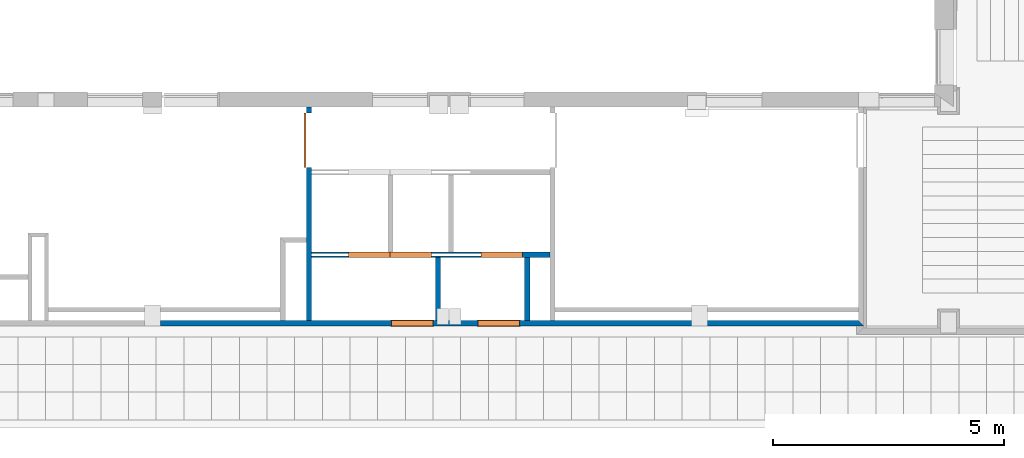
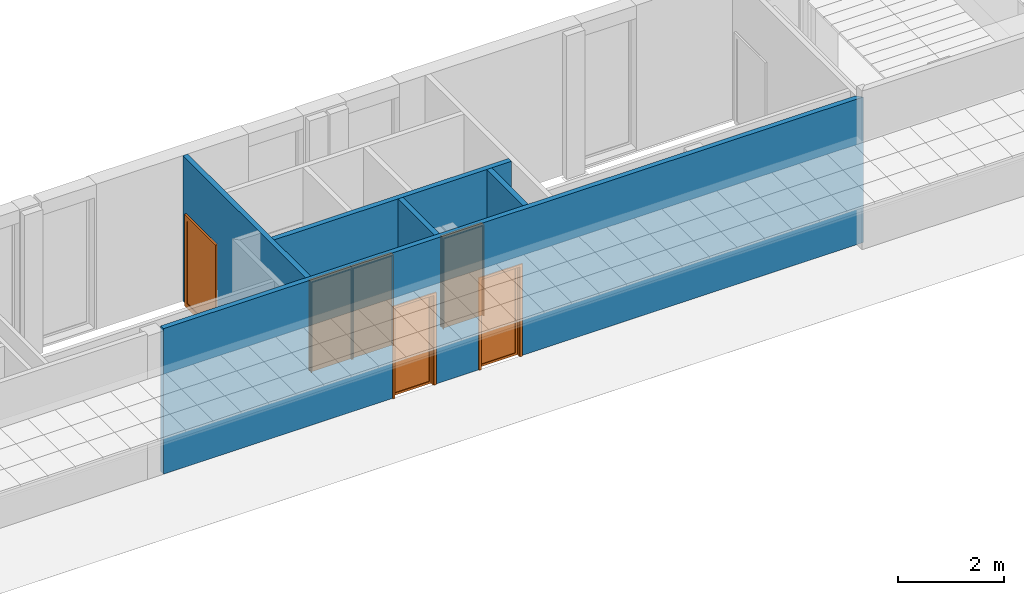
# One storey, part 29 of 60: 6 proxies, 5 walls, 6 openings.
"""IFC2X3 building model written with IfcOpenShell, lengths in millimetres."""

import ifcopenshell
import ifcopenshell.guid

model = None  # the IFC model being written
_history = None  # IfcOwnerHistory: only IFC2X3 demands one
_inside = {}  # id of a spatial element -> (the spatial element, [elements in it])
_under = {}  # id of a project, library or spatial element -> (it, [spatial elements below it])
_declared = {}  # id of a project -> (the project, [libraries it declares])
_typed = {}  # id of a type object -> (the type object, [elements of that type])
_made_of = {}  # id of a material, layer set ... -> (it, [elements and type objects made of it])


def new_model(schema):
    """Start an empty IFC model of exactly this schema.

    Asked for "IFC4X3", IfcOpenShell would pick the latest addendum, in which some entities
    have other attributes; the version numbers below select the first issue.
    IFC2X3 requires an IfcOwnerHistory on every rooted entity: one is made here for all.
    """
    global model, _history
    if schema == "IFC4X3":
        model = ifcopenshell.file(schema_version=(4, 3, 0, 0))
    else:
        model = ifcopenshell.file(schema=schema)
    _inside.clear()
    _under.clear()
    _declared.clear()
    _typed.clear()
    _made_of.clear()
    _history = None
    if model.schema == "IFC2X3":
        org = make("IfcOrganization", Name="unknown")
        user = make(
            "IfcPersonAndOrganization",
            ThePerson=make("IfcPerson", FamilyName="unknown"),
            TheOrganization=org,
        )
        app = make(
            "IfcApplication",
            ApplicationDeveloper=org,
            Version="unknown",
            ApplicationFullName="unknown",
            ApplicationIdentifier="unknown",
        )
        _history = make(
            "IfcOwnerHistory",
            OwningUser=user,
            OwningApplication=app,
            ChangeAction="ADDED",
            CreationDate=0,
        )
    return model


def make(cls, **values):
    """One entity of the class cls with the attributes given. An attribute that is None is left unset."""
    return model.create_entity(
        cls, **{name: value for name, value in values.items() if value is not None}
    )


def entity(cls, *values):
    """Any entity or typed value of the class cls, its attributes in the order of the schema. None: left unset."""
    e = model.create_entity(cls)
    for i, value in enumerate(values):
        if value is not None:
            e[i] = value
    return e


def rooted(cls, **values):
    """An entity with a GlobalId (a new one), such as an element, a storey or a relation."""
    return make(cls, GlobalId=ifcopenshell.guid.new(), OwnerHistory=_history, **values)


def si_unit(unit_type, name, prefix=None):
    """IfcSIUnit, for example si_unit("LENGTHUNIT", "METRE", prefix="MILLI")."""
    return make("IfcSIUnit", UnitType=unit_type, Prefix=prefix, Name=name)


def converted_unit(unit_type, name, factor, base, dimensions=None, offset=None):
    """IfcConversionBasedUnit, such as the inch: factor (a typed value) times the base unit."""
    return make(
        "IfcConversionBasedUnit"
        if offset is None
        else "IfcConversionBasedUnitWithOffset",
        ConversionOffset=offset,
        Dimensions=None
        if dimensions is None
        else entity("IfcDimensionalExponents", *dimensions),
        UnitType=unit_type,
        Name=name,
        ConversionFactor=make(
            "IfcMeasureWithUnit", ValueComponent=factor, UnitComponent=base
        ),
    )


def derived_unit(unit_type, elements):
    """IfcDerivedUnit: a product of units, each with its exponent."""
    return make(
        "IfcDerivedUnit",
        Elements=[
            make("IfcDerivedUnitElement", Unit=unit, Exponent=power)
            for unit, power in elements
        ],
        UnitType=unit_type,
    )


def money_unit(currency):
    """IfcMonetaryUnit."""
    return make("IfcMonetaryUnit", Currency=currency)


def assignment(units):
    """IfcUnitAssignment: the units of a project."""
    return None if units is None else make("IfcUnitAssignment", Units=units)


def point(xyz):
    """IfcCartesianPoint."""
    return None if xyz is None else make("IfcCartesianPoint", Coordinates=xyz)


def direction(xyz):
    """IfcDirection."""
    return None if xyz is None else make("IfcDirection", DirectionRatios=xyz)


def frame(location, z_axis=None, x_axis=None):
    """IfcAxis2Placement3D, a coordinate frame: its origin and axes. An axis left out is left unset."""
    return make(
        "IfcAxis2Placement3D",
        Location=point(location),
        Axis=direction(z_axis),
        RefDirection=direction(x_axis),
    )


def frame_2d(location, x_axis=None):
    """IfcAxis2Placement2D, a coordinate frame in the plane: its origin and x axis."""
    return make(
        "IfcAxis2Placement2D", Location=point(location), RefDirection=direction(x_axis)
    )


def origin_with_axes():
    """The frame at (0, 0, 0) with the z axis (0, 0, 1) and the x axis (1, 0, 0) written out."""
    return frame((0.0, 0.0, 0.0), z_axis=(0.0, 0.0, 1.0), x_axis=(1.0, 0.0, 0.0))


def origin_2d_with_axis():
    """The frame at (0, 0) in the plane with the x axis (1, 0) written out."""
    return frame_2d((0.0, 0.0), x_axis=(1.0, 0.0))


def place(relative_to, where):
    """IfcLocalPlacement: puts the frame where relative to a parent placement (None: the world)."""
    return make(
        "IfcLocalPlacement", PlacementRelTo=relative_to, RelativePlacement=where
    )


def context(
    kind, dimensions, precision=None, world=None, true_north=None, identifier=None
):
    """IfcGeometricRepresentationContext, for example the 3D "Model" context."""
    return make(
        "IfcGeometricRepresentationContext",
        ContextIdentifier=identifier,
        ContextType=kind,
        CoordinateSpaceDimension=dimensions,
        Precision=precision,
        WorldCoordinateSystem=world,
        TrueNorth=true_north,
    )


def subcontext(parent, identifier, kind, view, scale=None):
    """IfcGeometricRepresentationSubContext, for example "Body" below "Model"."""
    return make(
        "IfcGeometricRepresentationSubContext",
        ContextIdentifier=identifier,
        ContextType=kind,
        ParentContext=parent,
        TargetScale=scale,
        TargetView=view,
    )


def project(units=None, contexts=None):
    """IfcProject with its units and contexts."""
    return rooted(
        "IfcProject",
        Name="project",
        RepresentationContexts=contexts,
        UnitsInContext=assignment(units),
    )


def spatial(cls, under=None, at=None, **own):
    """A site, building, storey or space (cls), placed at a placement, below another one or the project."""
    s = rooted(cls, ObjectPlacement=at, **own)
    if under is not None:
        _under.setdefault(under.id(), (under, []))[1].append(s)
    return s


def polyline(points):
    """IfcPolyline through the points."""
    return make("IfcPolyline", Points=[point(p) for p in points])


def profile(cls, at=None, kind="AREA", **sizes):
    """A parametric profile (cls). Its sizes go by their IFC names, for example OverallWidth=200.0."""
    return make(cls, ProfileType=kind, Position=at, **sizes)


def rectangle(**sizes):
    """IfcRectangleProfileDef."""
    return profile("IfcRectangleProfileDef", **sizes)


def outline(outer, holes=None, kind="AREA"):
    """IfcArbitraryClosedProfileDef: a profile drawn as a closed curve; with holes, ...WithVoids."""
    if holes is None:
        return make("IfcArbitraryClosedProfileDef", ProfileType=kind, OuterCurve=outer)
    return make(
        "IfcArbitraryProfileDefWithVoids",
        ProfileType=kind,
        OuterCurve=outer,
        InnerCurves=holes,
    )


def extrude(swept, where, along, depth):
    """IfcExtrudedAreaSolid: the profile swept, set in the frame where, extruded along a direction by depth."""
    return make(
        "IfcExtrudedAreaSolid",
        SweptArea=swept,
        Position=where,
        ExtrudedDirection=direction(along),
        Depth=depth,
    )


def faces_of(points, faces, orient=None, outer=None):
    """IfcFace entities. A face is a list of loops; a loop is a list of indices into points, from 0.

    orient and outer hold one flag for each loop. By default every Orientation is true, the
    first loop of a face is its IfcFaceOuterBound and the others are IfcFaceBound.
    """
    made = []
    for i, loops in enumerate(faces):
        bounds = []
        for j, loop in enumerate(loops):
            is_outer = j == 0 if outer is None else outer[i][j]
            bounds.append(
                make(
                    "IfcFaceOuterBound" if is_outer else "IfcFaceBound",
                    Bound=make("IfcPolyLoop", Polygon=[points[k] for k in loop]),
                    Orientation=True if orient is None else orient[i][j],
                )
            )
        made.append(make("IfcFace", Bounds=bounds))
    return made


def open_shell(faces, orient=None, outer=None):
    """The faces of one IfcOpenShell. surface_model builds it on its shared points."""
    return ("IfcOpenShell", faces, orient, outer)


def faceted_brep(points, faces, orient=None, outer=None, voids=None):
    """IfcFacetedBrep: a solid bounded by flat faces; with voids (closed shells), ...WithVoids."""
    shared = [point(p) for p in points]
    hull = make("IfcClosedShell", CfsFaces=faces_of(shared, faces, orient, outer))
    if voids is None:
        return make("IfcFacetedBrep", Outer=hull)
    return make(
        "IfcFacetedBrepWithVoids",
        Outer=hull,
        Voids=[
            make(cls, CfsFaces=faces_of(shared, fs, o, b)) for cls, fs, o, b in voids
        ],
    )


def surface_model(cls, points, shells):
    """IfcFaceBasedSurfaceModel or IfcShellBasedSurfaceModel (cls): surfaces that need not close."""
    shared = [point(p) for p in points]
    made = [make(c, CfsFaces=faces_of(shared, fs, o, b)) for c, fs, o, b in shells]
    if cls == "IfcFaceBasedSurfaceModel":
        return make(cls, FbsmFaces=made)
    return make(cls, SbsmBoundary=made)


def shape(context_of_items, identifier, shape_type, items):
    """IfcShapeRepresentation: the items that make up one representation, for example the "Body"."""
    return make(
        "IfcShapeRepresentation",
        ContextOfItems=context_of_items,
        RepresentationIdentifier=identifier,
        RepresentationType=shape_type,
        Items=items,
    )


def source(mapping_origin, context_of_items, identifier, shape_type, items):
    """IfcRepresentationMap: a shape defined once, which mapped items show again and again."""
    return make(
        "IfcRepresentationMap",
        MappingOrigin=mapping_origin,
        MappedRepresentation=shape(context_of_items, identifier, shape_type, items),
    )


def transform(
    local_origin,
    x_axis=None,
    y_axis=None,
    z_axis=None,
    scale=None,
    scale2=None,
    scale3=None,
    uniform=True,
):
    """IfcCartesianTransformationOperator3D, or its non-uniform kind. x_axis, y_axis, z_axis: its Axis1, 2, 3."""
    if uniform:
        return make(
            "IfcCartesianTransformationOperator3D",
            Axis1=direction(x_axis),
            Axis2=direction(y_axis),
            LocalOrigin=point(local_origin),
            Scale=scale,
            Axis3=direction(z_axis),
        )
    return make(
        "IfcCartesianTransformationOperator3DnonUniform",
        Axis1=direction(x_axis),
        Axis2=direction(y_axis),
        LocalOrigin=point(local_origin),
        Scale=scale,
        Axis3=direction(z_axis),
        Scale2=scale2,
        Scale3=scale3,
    )


def mapped(mapping_source, mapping_target):
    """IfcMappedItem: shows the shape of a source again, moved by a transform."""
    return make(
        "IfcMappedItem", MappingSource=mapping_source, MappingTarget=mapping_target
    )


def material(Name=None, Category=None):
    """IfcMaterial."""
    return make("IfcMaterial", Name=Name, Category=Category)


def layer(
    of_material, thickness, ventilated=None, Name=None, Category=None, Priority=None
):
    """IfcMaterialLayer: one layer of a wall or slab, of a material (None: an air gap)."""
    return make(
        "IfcMaterialLayer",
        Material=of_material,
        LayerThickness=thickness,
        IsVentilated=ventilated,
        Name=Name,
        Category=Category,
        Priority=Priority,
    )


def layer_set(layers, Name=None):
    """IfcMaterialLayerSet."""
    return make("IfcMaterialLayerSet", MaterialLayers=layers, LayerSetName=Name)


def layer_usage(for_layer_set, set_direction, sense, offset, extent=None):
    """IfcMaterialLayerSetUsage: how a layer set lies in its element."""
    return make(
        "IfcMaterialLayerSetUsage",
        ForLayerSet=for_layer_set,
        LayerSetDirection=set_direction,
        DirectionSense=sense,
        OffsetFromReferenceLine=offset,
        ReferenceExtent=extent,
    )


def made_of(thing, what):
    """Note that an element or type object is made of a material, layer set ...; save() writes the relation."""
    if what is not None:
        _made_of.setdefault(what.id(), (what, []))[1].append(thing)
    return thing


def type_object(cls, material=None, **own):
    """A type object (cls), such as IfcWallType, which elements share."""
    return made_of(rooted(cls, **own), material)


def element(
    cls,
    number,
    at=None,
    inside=None,
    cuts=None,
    type_object=None,
    material=None,
    context=None,
    identifier="Body",
    shape_type=None,
    held_by="IfcProductDefinitionShape",
    body=None,
    shapes=None,
    **own,
):
    """One element of the class cls, such as IfcWall. Its Tag is "e" and its number.

    at: its placement. inside: the storey or other place that contains it. cuts: it is an
    opening in that element (IfcRelVoidsElement). A single representation is given by context,
    identifier, shape_type and body (its items); several are given by shapes. held_by: the class
    of the entity that holds the representations. save() writes the other relations.
    """
    e = rooted(cls, Tag="e%d" % number, ObjectPlacement=at, **own)
    if body is not None:
        shapes = [shape(context, identifier, shape_type, body)]
    if shapes is not None:
        e.Representation = make(held_by, Representations=shapes)
    if inside is not None:
        _inside.setdefault(inside.id(), (inside, []))[1].append(e)
    if cuts is not None:
        rooted(
            "IfcRelVoidsElement", RelatingBuildingElement=cuts, RelatedOpeningElement=e
        )
    if type_object is not None:
        _typed.setdefault(type_object.id(), (type_object, []))[1].append(e)
    return made_of(e, material)


def fill(opening, filler):
    """IfcRelFillsElement: the door or window that sits in an opening."""
    return rooted(
        "IfcRelFillsElement",
        RelatingOpeningElement=opening,
        RelatedBuildingElement=filler,
    )


def aggregate(whole, parts):
    """IfcRelAggregates: a whole, such as a stair, and the parts it consists of."""
    return rooted("IfcRelAggregates", RelatingObject=whole, RelatedObjects=parts)


def save(model, path):
    """Write the relations noted so far, then the file.

    IfcRelAggregates (storeys below a building ...), IfcRelContainedInSpatialStructure (elements
    in a storey), IfcRelDefinesByType, IfcRelAssociatesMaterial and IfcRelDeclares: one each for
    every whole, place, type object, material and project.
    """
    for whole, parts in _under.values():
        aggregate(whole, parts)
    for where, things in _inside.values():
        rooted(
            "IfcRelContainedInSpatialStructure",
            RelatedElements=things,
            RelatingStructure=where,
        )
    for kind, things in _typed.values():
        rooted("IfcRelDefinesByType", RelatedObjects=things, RelatingType=kind)
    for what, things in _made_of.values():
        rooted("IfcRelAssociatesMaterial", RelatedObjects=things, RelatingMaterial=what)
    for by, libraries in _declared.values():
        rooted("IfcRelDeclares", RelatingContext=by, RelatedDefinitions=libraries)
    model.write(path)


model = new_model("IFC2X3")

# Units and contexts
model_context = context("Model", 3, precision=0.01, world=origin_with_axes(), true_north=direction((0.0, 1.0)))
body_context = subcontext(model_context, "Body", "Model", "MODEL_VIEW")
ifc_project = project(units=[si_unit("LENGTHUNIT", "METRE", prefix="MILLI"), si_unit("AREAUNIT", "SQUARE_METRE"), si_unit("VOLUMEUNIT", "CUBIC_METRE"), converted_unit("PLANEANGLEUNIT", "DEGREE", entity("IfcPlaneAngleMeasure", 0.0174532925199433), si_unit("PLANEANGLEUNIT", "RADIAN"), dimensions=[0, 0, 0, 0, 0, 0, 0]), money_unit("USD"), converted_unit("TIMEUNIT", "Year", entity("IfcTimeMeasure", 31557600.0), si_unit("TIMEUNIT", "SECOND"), dimensions=[0, 0, 1, 0, 0, 0, 0]), si_unit("MASSUNIT", "GRAM", prefix="KILO"), si_unit("THERMODYNAMICTEMPERATUREUNIT", "DEGREE_CELSIUS"), si_unit("LUMINOUSINTENSITYUNIT", "LUMEN"), si_unit("ENERGYUNIT", "JOULE", prefix="MEGA"), derived_unit("THERMALCONDUCTANCEUNIT", [(si_unit("POWERUNIT", "WATT"), 1), (si_unit("LENGTHUNIT", "METRE"), -1), (si_unit("THERMODYNAMICTEMPERATUREUNIT", "KELVIN"), -1)]), derived_unit("SPECIFICHEATCAPACITYUNIT", [(si_unit("ENERGYUNIT", "JOULE"), 1), (si_unit("MASSUNIT", "GRAM", prefix="KILO"), -1), (si_unit("THERMODYNAMICTEMPERATUREUNIT", "KELVIN"), -1)]), derived_unit("MASSDENSITYUNIT", [(si_unit("MASSUNIT", "GRAM", prefix="KILO"), 1), (si_unit("VOLUMEUNIT", "CUBIC_METRE"), -1)])], contexts=[model_context])

# Site, building, storey
site_placement = place(None, origin_with_axes())
site = spatial("IfcSite", under=ifc_project, at=site_placement, Name="Sitio", CompositionType="ELEMENT")
building_placement = place(site_placement, origin_with_axes())
building = spatial("IfcBuilding", under=site, at=building_placement, Name="Construcción", CompositionType="ELEMENT")
storey_placement = place(building_placement, frame((0.0, 0.0, 3650.0), z_axis=(0.0, 0.0, 1.0), x_axis=(1.0, 0.0, 0.0)))
storey = spatial("IfcBuildingStorey", under=building, at=storey_placement, Name="PLANTA 2ª", CompositionType="ELEMENT", Elevation=3650.0)

# Wall, openings, proxies
ifc_material_1 = material(Name="ARQ_AM246_Arrebossat_De_Guix")
ifc_layer_1 = layer(ifc_material_1, 10.0, ventilated="UNKNOWN")
ifc_material_2 = material(Name="ARQ_CE217_Gero")
ifc_layer_2 = layer(ifc_material_2, 90.0, ventilated="UNKNOWN")
ifc_layer_3 = layer(ifc_material_1, 10.0, ventilated="UNKNOWN")
ifc_layer_set = layer_set([ifc_layer_1, ifc_layer_2, ifc_layer_3], Name="CR Enva Totxana")
ifc_layer_usage_1 = layer_usage(ifc_layer_set, "AXIS2", "POSITIVE", 0.0)
wall_type = type_object("IfcWallType", Name="CR Enva Totxana 110", PredefinedType="NOTDEFINED")
wall_1_placement = place(storey_placement, frame((-18875.39246172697, -17083.97582371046, 0.0), z_axis=(0.0, 0.0, 1.0), x_axis=(1.0, 0.0, 0.0)))
wall_1 = element("IfcWallStandardCase", 1, at=wall_1_placement, inside=storey, type_object=wall_type, material=ifc_layer_usage_1, Name="MS-201", context=body_context, shape_type="SweptSolid", body=[
    extrude(outline(polyline([(0.0, 0.0), (15236.49825822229, 0.0), (15126.49825822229, 109.9999999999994), (0.0, 109.9999999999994), (0.0, 0.0)])), origin_with_axes(), (0.0, 0.0, 1.0), 3350.0),
])
opening_1_placement = place(wall_1_placement, frame((5454.998316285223, 0.0, 0.0), z_axis=(0.0, 0.0, 1.0), x_axis=(1.0, 0.0, 0.0)))
opening_1 = element("IfcOpeningElement", 2, at=opening_1_placement, cuts=wall_1, Name="PF-05D", context=body_context, shape_type="SweptSolid", body=[
    extrude(rectangle(XDim=899.9999999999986, YDim=2100.0, at=origin_2d_with_axis()), frame((0.0, -109.9999999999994, 1050.0), z_axis=(0.0, 1.0, 0.0), x_axis=(1.0, 0.0, 0.0)), (0.0, 0.0, 1.0), 329.9999999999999),
    extrude(rectangle(XDim=943.9999999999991, YDim=2122.0, at=origin_2d_with_axis()), frame((0.0, 0.0, 1061.0), z_axis=(0.0, 1.0, 0.0), x_axis=(1.0, 0.0, 0.0)), (0.0, 0.0, -1.0), 110.0),
    extrude(rectangle(XDim=943.9999999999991, YDim=2122.0, at=origin_2d_with_axis()), frame((0.0, 109.9999999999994, 1061.0), z_axis=(0.0, -1.0, 0.0), x_axis=(1.0, 0.0, 0.0)), (0.0, 0.0, -1.0), 110.0),
])
opening_2_placement = place(wall_1_placement, frame((7332.200704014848, 0.0, 0.0), z_axis=(0.0, 0.0, 1.0), x_axis=(1.0, 0.0, 0.0)))
opening_2 = element("IfcOpeningElement", 3, at=opening_2_placement, cuts=wall_1, Name="PF-06D", context=body_context, shape_type="SweptSolid", body=[
    extrude(rectangle(XDim=899.9999999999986, YDim=2100.0, at=origin_2d_with_axis()), frame((0.0, -109.9999999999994, 1050.0), z_axis=(0.0, 1.0, 0.0), x_axis=(1.0, 0.0, 0.0)), (0.0, 0.0, 1.0), 329.9999999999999),
    extrude(rectangle(XDim=943.9999999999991, YDim=2122.0, at=origin_2d_with_axis()), frame((0.0, 0.0, 1061.0), z_axis=(0.0, 1.0, 0.0), x_axis=(1.0, 0.0, 0.0)), (0.0, 0.0, -1.0), 110.0),
    extrude(rectangle(XDim=943.9999999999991, YDim=2122.0, at=origin_2d_with_axis()), frame((0.0, 109.9999999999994, 1061.0), z_axis=(0.0, -1.0, 0.0), x_axis=(1.0, 0.0, 0.0)), (0.0, 0.0, -1.0), 110.0),
])
building_element_proxy_type_1 = type_object("IfcBuildingElementProxyType", Name="Puerta 27", PredefinedType="NOTDEFINED")
shared_shape_1 = source(origin_with_axes(), body_context, "Body", "SurfaceModel", [
    faceted_brep([(-472.0000000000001, -129.0, 0.0), (-472.0000000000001, -110.0, 0.0), (-422.0000000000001, -110.0, 0.0), (-422.0000000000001, -129.0, 0.0), (-472.0000000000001, -129.0000000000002, 2122.0), (-472.0000000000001, -110.0000000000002, 2122.0), (-422.0000000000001, -110.0000000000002, 2072.0), (-422.0000000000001, -129.0000000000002, 2072.0)], [[[0, 1, 2, 3]], [[4, 5, 1, 0]], [[1, 5, 6, 2]], [[3, 2, 6, 7]], [[0, 3, 7, 4]], [[7, 6, 5, 4]]]),
    faceted_brep([(472.0000000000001, -129.0000000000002, 2122.0), (472.0000000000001, -110.0000000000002, 2122.0), (422.0000000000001, -110.0000000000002, 2072.0), (422.0000000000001, -129.0000000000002, 2072.0), (472.0000000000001, -129.0, 0.0), (472.0000000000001, -110.0, 0.0), (422.0000000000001, -110.0, 0.0), (422.0000000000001, -129.0, 0.0)], [[[0, 1, 2, 3]], [[4, 5, 1, 0]], [[1, 5, 6, 2]], [[3, 2, 6, 7]], [[0, 3, 7, 4]], [[7, 6, 5, 4]]]),
    faceted_brep([(-472.0000000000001, -129.0000000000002, 2122.0), (-472.0000000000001, -110.0000000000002, 2122.0), (-422.0000000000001, -110.0000000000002, 2072.0), (-422.0000000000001, -129.0000000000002, 2072.0), (472.0000000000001, -129.0000000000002, 2122.0), (472.0000000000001, -110.0000000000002, 2122.0), (422.0000000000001, -110.0000000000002, 2072.0), (422.0000000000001, -129.0000000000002, 2072.0)], [[[0, 1, 2, 3]], [[4, 5, 1, 0]], [[1, 5, 6, 2]], [[3, 2, 6, 7]], [[0, 3, 7, 4]], [[7, 6, 5, 4]]]),
    faceted_brep([(-472.0000000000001, 19.0, 0.0), (-422.0000000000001, 19.0, 0.0), (-422.0000000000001, 0.0, 0.0), (-472.0000000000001, 0.0, 0.0), (-472.0000000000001, 18.99999999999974, 2122.0), (-422.0000000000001, 18.99999999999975, 2072.0), (-422.0000000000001, 0.0, 2072.0), (-472.0000000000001, 0.0, 2122.0)], [[[0, 1, 2, 3]], [[0, 4, 5, 1]], [[1, 5, 6, 2]], [[3, 2, 6, 7]], [[4, 0, 3, 7]], [[5, 4, 7, 6]]]),
    faceted_brep([(472.0000000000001, 18.99999999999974, 2122.0), (422.0000000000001, 18.99999999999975, 2072.0), (422.0000000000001, 0.0, 2072.0), (472.0000000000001, 0.0, 2122.0), (472.0000000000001, 19.0, 0.0), (422.0000000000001, 19.0, 0.0), (422.0000000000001, 0.0, 0.0), (472.0000000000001, 0.0, 0.0)], [[[0, 1, 2, 3]], [[0, 4, 5, 1]], [[1, 5, 6, 2]], [[3, 2, 6, 7]], [[4, 0, 3, 7]], [[5, 4, 7, 6]]]),
    faceted_brep([(-472.0000000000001, 18.99999999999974, 2122.0), (-422.0, 18.99999999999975, 2072.0), (-422.0, 0.0, 2072.0), (-472.0000000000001, 0.0, 2122.0), (472.0000000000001, 18.99999999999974, 2122.0), (422.0, 18.99999999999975, 2072.0), (422.0, 0.0, 2072.0), (472.0000000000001, 0.0, 2122.0)], [[[0, 1, 2, 3]], [[0, 4, 5, 1]], [[1, 5, 6, 2]], [[3, 2, 6, 7]], [[4, 0, 3, 7]], [[5, 4, 7, 6]]]),
    faceted_brep([(-409.9999999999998, -40.0, 0.0), (-410.0000000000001, -40.0, 2060.0), (-410.0000000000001, -110.0, 2060.0), (-410.0000000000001, -110.0, 0.0), (-422.0000000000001, -40.0, 2060.0), (-422.0000000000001, -40.0, 0.0), (-422.0000000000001, 0.0, 2060.0), (-449.9999999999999, 0.0, 2060.0), (-449.9999999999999, -110.0, 2060.0), (-449.9999999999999, -110.0, 0.0), (-449.9999999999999, 0.0, 0.0), (-422.0000000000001, 0.0, 0.0)], [[[0, 1, 2, 3]], [[4, 1, 0, 5]], [[4, 6, 7, 8, 2, 1]], [[3, 2, 8, 9]], [[5, 0, 3, 9, 10, 11]], [[6, 4, 5, 11]], [[6, 11, 10, 7]], [[10, 9, 8, 7]]]),
    faceted_brep([(422.0000000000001, -40.0, 2060.0), (410.0000000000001, -40.0, 2060.0), (410.0000000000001, -110.0, 2060.0), (449.9999999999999, -110.0, 2060.0), (449.9999999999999, 0.0, 2060.0), (422.0000000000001, 0.0, 2060.0), (422.0000000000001, -40.0, 0.0), (410.0000000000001, -40.0, 0.0), (410.0000000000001, -110.0, 0.0), (449.9999999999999, -110.0, 0.0), (449.9999999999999, 0.0, 0.0), (422.0000000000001, 0.0, 0.0)], [[[0, 1, 2, 3, 4, 5]], [[1, 0, 6, 7]], [[1, 7, 8, 2]], [[3, 2, 8, 9]], [[4, 3, 9, 10]], [[11, 5, 4, 10]], [[0, 5, 11, 6]], [[6, 11, 10, 9, 8, 7]]]),
    faceted_brep([(-422.0000000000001, 0.0, 2072.0), (-422.0000000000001, 0.0, 2060.0), (-450.0, 0.0, 2060.0), (-450.0, 0.0, 2100.0), (450.0, 0.0, 2100.0), (450.0, 0.0, 2060.0), (422.0000000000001, 0.0, 2060.0), (422.0000000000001, 0.0, 2072.0), (-422.0000000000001, -40.0, 2072.0), (-422.0000000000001, -40.0, 2060.0), (-410.0000000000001, -40.0, 2060.0), (-410.0000000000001, -110.0, 2060.0), (-450.0, -110.0, 2060.0), (-450.0, -110.0, 2100.0), (450.0, -110.0, 2100.0), (450.0, -110.0, 2060.0), (422.0000000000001, -40.0, 2060.0), (410.0000000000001, -110.0, 2060.0), (410.0000000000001, -40.0, 2060.0), (422.0000000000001, -40.0, 2072.0)], [[[0, 1, 2, 3, 4, 5, 6, 7]], [[1, 0, 8, 9]], [[9, 10, 11, 12, 2, 1]], [[2, 12, 13, 3]], [[3, 13, 14, 4]], [[4, 14, 15, 5]], [[16, 6, 5, 15, 17, 18]], [[7, 6, 16, 19]], [[0, 7, 19, 8]], [[16, 18, 10, 9, 8, 19]], [[10, 18, 17, 11]], [[17, 15, 14, 13, 12, 11]]]),
    faceted_brep([(421.9999999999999, 0.0, 50.0), (421.9999999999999, -40.0, 50.0), (371.9999999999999, -40.0, 50.0), (371.9999999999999, 0.0, 50.0), (421.9999999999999, 0.0, 2022.0), (421.9999999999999, -40.00000000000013, 2022.0), (371.9999999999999, -40.00000000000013, 2022.0), (371.9999999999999, 0.0, 2022.0)], [[[0, 1, 2, 3]], [[4, 5, 1, 0]], [[1, 5, 6, 2]], [[3, 2, 6, 7]], [[0, 3, 7, 4]], [[7, 6, 5, 4]]]),
    faceted_brep([(-422.0000000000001, 0.0, 50.0), (-422.0000000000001, -40.0, 50.0), (-422.0000000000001, -40.00000000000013, 2022.0), (-422.0000000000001, 0.0, 2022.0), (-372.0000000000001, 0.0, 50.0), (-372.0000000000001, -40.0, 50.0), (-372.0000000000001, -40.00000000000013, 2022.0), (-372.0000000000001, 0.0, 2022.0)], [[[0, 1, 2, 3]], [[4, 5, 1, 0]], [[1, 5, 6, 2]], [[3, 2, 6, 7]], [[0, 3, 7, 4]], [[7, 6, 5, 4]]]),
    faceted_brep([(421.9999999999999, 0.0, 0.0), (421.9999999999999, -40.0, 0.0), (-422.0000000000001, -40.0, 0.0), (-422.0000000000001, 0.0, 0.0), (421.9999999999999, 0.0, 50.0), (421.9999999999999, -40.0, 50.0), (371.9999999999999, -40.0, 50.0), (-372.0000000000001, -40.0, 50.0), (-422.0000000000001, -40.0, 50.0), (-422.0000000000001, 0.0, 50.0), (-372.0000000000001, 0.0, 50.0), (371.9999999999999, 0.0, 50.0)], [[[0, 1, 2, 3]], [[4, 5, 1, 0]], [[1, 5, 6, 7, 8, 2]], [[3, 2, 8, 9]], [[0, 3, 9, 10, 11, 4]], [[11, 6, 5, 4]], [[10, 7, 6, 11]], [[9, 8, 7, 10]]]),
    faceted_brep([(421.9999999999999, 0.0, 2072.0), (421.9999999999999, -40.00000000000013, 2072.0), (421.9999999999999, -40.00000000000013, 2022.0), (421.9999999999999, 0.0, 2022.0), (-422.0000000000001, 0.0, 2072.0), (-422.0000000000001, -40.00000000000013, 2072.0), (-422.0000000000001, -40.00000000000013, 2022.0), (-372.0000000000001, -40.00000000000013, 2022.0), (371.9999999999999, -40.00000000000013, 2022.0), (371.9999999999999, 0.0, 2022.0), (-372.0000000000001, 0.0, 2022.0), (-422.0000000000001, 0.0, 2022.0)], [[[0, 1, 2, 3]], [[4, 5, 1, 0]], [[1, 5, 6, 7, 8, 2]], [[3, 2, 8, 9]], [[0, 3, 9, 10, 11, 4]], [[11, 6, 5, 4]], [[10, 7, 6, 11]], [[9, 8, 7, 10]]]),
    surface_model("IfcShellBasedSurfaceModel", [(371.9999999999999, -14.0, 50.0), (-372.0000000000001, -14.0, 50.0), (-372.0000000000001, -14.0, 2022.0), (371.9999999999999, -14.0, 2022.0)], [open_shell([[[0, 1, 2, 3]]])]),
    surface_model("IfcShellBasedSurfaceModel", [(371.9999999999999, -26.0, 50.0), (371.9999999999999, -26.0, 2022.0), (-372.0000000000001, -26.0, 2022.0), (-372.0000000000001, -26.0, 50.0)], [open_shell([[[0, 1, 2, 3]]])]),
])
proxy_1_placement = place(opening_1_placement, frame((-449.9999999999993, 0.0, 0.0), z_axis=(0.0, 0.0, 1.0), x_axis=(1.0, 0.0, 0.0)))
proxy_1 = element("IfcBuildingElementProxy", 4, at=proxy_1_placement, inside=storey, type_object=building_element_proxy_type_1, Name="PF-05D", context=body_context, shape_type="MappedRepresentation", body=[
    mapped(shared_shape_1, transform((449.9999999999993, 109.9999999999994, 0.0))),
])
fill(opening_1, proxy_1)
proxy_2_placement = place(opening_2_placement, frame((-449.9999999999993, 0.0, 0.0), z_axis=(0.0, 0.0, 1.0), x_axis=(1.0, 0.0, 0.0)))
proxy_2 = element("IfcBuildingElementProxy", 5, at=proxy_2_placement, inside=storey, type_object=building_element_proxy_type_1, Name="PF-06D", context=body_context, shape_type="MappedRepresentation", body=[
    mapped(shared_shape_1, transform((449.9999999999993, 109.9999999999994, 0.0))),
])
fill(opening_2, proxy_2)

# Wall, opening, proxy
ifc_layer_usage_2 = layer_usage(ifc_layer_set, "AXIS2", "POSITIVE", -110.0)
wall_2_placement = place(storey_placement, frame((-15716.10900490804, -17083.97582371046, 0.0), z_axis=(0.0, 0.0, 1.0), x_axis=(0.0, 1.0, 0.0)))
wall_2 = element("IfcWallStandardCase", 6, at=wall_2_placement, inside=storey, type_object=wall_type, material=ifc_layer_usage_2, Name="MS-201", context=body_context, shape_type="SweptSolid", body=[
    extrude(outline(polyline([(109.9999999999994, -109.9999999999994), (4744.999999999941, -109.9999999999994), (4744.999999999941, 0.0), (109.9999999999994, 0.0), (109.9999999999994, -109.9999999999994)])), origin_with_axes(), (0.0, 0.0, 1.0), 3350.0),
])
opening_3_placement = place(wall_2_placement, frame((4023.999835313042, 0.0, 0.0), z_axis=(0.0, 0.0, 1.0), x_axis=(1.0, 0.0, 0.0)))
opening_3 = element("IfcOpeningElement", 7, at=opening_3_placement, cuts=wall_2, Name="PF-13D", context=body_context, shape_type="SweptSolid", body=[
    extrude(rectangle(XDim=1174.000000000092, YDim=2100.0, at=origin_2d_with_axis()), frame((0.0, -109.9999999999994, 1050.0), z_axis=(0.0, -1.0, 0.0), x_axis=(-1.0, 0.0, 0.0)), (0.0, 0.0, -1.0), 329.9999999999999),
])
building_element_proxy_type_2 = type_object("IfcBuildingElementProxyType", Name="Puerta Corredera Exterior 27", PredefinedType="NOTDEFINED")
shared_shape_2 = source(origin_with_axes(), body_context, "Body", "SurfaceModel", [
    faceted_brep([(-587.0000000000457, 44.99999999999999, 100.0), (-487.0000000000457, 44.99999999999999, 100.0), (-487.0000000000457, 4.99999999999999, 100.0), (-587.0000000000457, 4.99999999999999, 100.0), (-587.0000000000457, 44.99999999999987, 2000.0), (-487.0000000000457, 44.99999999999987, 2000.0), (-487.0000000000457, 4.999999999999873, 2000.0), (-587.0000000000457, 4.999999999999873, 2000.0)], [[[0, 1, 2, 3]], [[0, 4, 5, 1]], [[1, 5, 6, 2]], [[3, 2, 6, 7]], [[4, 0, 3, 7]], [[5, 4, 7, 6]]]),
    faceted_brep([(587.0000000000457, 44.99999999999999, 100.0), (587.0000000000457, 44.99999999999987, 2000.0), (587.0000000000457, 4.999999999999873, 2000.0), (587.0000000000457, 4.99999999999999, 100.0), (487.0000000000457, 44.99999999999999, 100.0), (487.0000000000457, 44.99999999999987, 2000.0), (487.0000000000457, 4.999999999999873, 2000.0), (487.0000000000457, 4.99999999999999, 100.0)], [[[0, 1, 2, 3]], [[0, 4, 5, 1]], [[1, 5, 6, 2]], [[3, 2, 6, 7]], [[4, 0, 3, 7]], [[5, 4, 7, 6]]]),
    faceted_brep([(-587.0000000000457, 45.0, 0.0), (587.0000000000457, 45.0, 0.0), (587.0000000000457, 4.999999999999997, 0.0), (-587.0000000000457, 4.999999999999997, 0.0), (-587.0000000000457, 44.99999999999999, 100.0), (-487.0000000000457, 44.99999999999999, 100.0), (487.0000000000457, 44.99999999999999, 100.0), (587.0000000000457, 44.99999999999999, 100.0), (587.0000000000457, 4.99999999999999, 100.0), (487.0000000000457, 4.99999999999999, 100.0), (-487.0000000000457, 4.99999999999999, 100.0), (-587.0000000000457, 4.99999999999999, 100.0)], [[[0, 1, 2, 3]], [[0, 4, 5, 6, 7, 1]], [[1, 7, 8, 2]], [[3, 2, 8, 9, 10, 11]], [[4, 0, 3, 11]], [[5, 4, 11, 10]], [[6, 5, 10, 9]], [[7, 6, 9, 8]]]),
    faceted_brep([(-587.0000000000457, 44.99999999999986, 2100.0), (-587.0000000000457, 44.99999999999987, 2000.0), (-587.0000000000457, 4.999999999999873, 2000.0), (-587.0000000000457, 4.999999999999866, 2100.0), (587.0000000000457, 44.99999999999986, 2100.0), (587.0000000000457, 44.99999999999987, 2000.0), (487.0000000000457, 44.99999999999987, 2000.0), (-487.0000000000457, 44.99999999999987, 2000.0), (-487.0000000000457, 4.999999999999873, 2000.0), (487.0000000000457, 4.999999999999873, 2000.0), (587.0000000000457, 4.999999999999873, 2000.0), (587.0000000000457, 4.999999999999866, 2100.0)], [[[0, 1, 2, 3]], [[0, 4, 5, 6, 7, 1]], [[1, 7, 8, 2]], [[3, 2, 8, 9, 10, 11]], [[4, 0, 3, 11]], [[5, 4, 11, 10]], [[6, 5, 10, 9]], [[7, 6, 9, 8]]]),
    surface_model("IfcShellBasedSurfaceModel", [(-487.0000000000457, 31.0, 100.0), (-487.0000000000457, 31.0, 2000.0), (487.0000000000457, 31.0, 2000.0), (487.0000000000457, 31.0, 100.0)], [open_shell([[[0, 1, 2, 3]]])]),
    surface_model("IfcShellBasedSurfaceModel", [(-487.0000000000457, 19.0, 100.0), (487.0000000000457, 19.0, 100.0), (487.0000000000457, 19.0, 2000.0), (-487.0000000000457, 19.0, 2000.0)], [open_shell([[[0, 1, 2, 3]]])]),
])
proxy_3_placement = place(opening_3_placement, frame((-587.0000000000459, 0.0, 0.0), z_axis=(0.0, 0.0, 1.0), x_axis=(1.0, 0.0, 0.0)))
proxy_3 = element("IfcBuildingElementProxy", 8, at=proxy_3_placement, inside=storey, type_object=building_element_proxy_type_2, Name="PF-13D", context=body_context, shape_type="MappedRepresentation", body=[
    mapped(shared_shape_2, transform((587.0000000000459, 0.0, 0.0))),
])
fill(opening_3, proxy_3)

# Wall, openings, proxies
ifc_layer_usage_3 = layer_usage(ifc_layer_set, "AXIS2", "POSITIVE", -110.0)
wall_3_placement = place(storey_placement, frame((-10437.89402518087, -15599.37688161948, 0.0), z_axis=(0.0, 0.0, 1.0), x_axis=(-1.0, 0.0, 0.0)))
wall_3 = element("IfcWallStandardCase", 9, at=wall_3_placement, inside=storey, type_object=wall_type, material=ifc_layer_usage_3, Name="MS-201", context=body_context, shape_type="SweptSolid", body=[
    extrude(outline(polyline([(0.0, -109.9999999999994), (5168.214979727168, -109.9999999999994), (5168.214979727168, 0.0), (0.0, 0.0), (0.0, -109.9999999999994)])), origin_with_axes(), (0.0, 0.0, 1.0), 3350.0),
])
opening_4_placement = place(wall_3_placement, frame((3912.625216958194, 0.0, 0.0), z_axis=(0.0, 0.0, 1.0), x_axis=(1.0, 0.0, 0.0)))
opening_4 = element("IfcOpeningElement", 10, at=opening_4_placement, cuts=wall_3, Name="PF-14D", context=body_context, shape_type="SweptSolid", body=[
    extrude(rectangle(XDim=899.9999999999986, YDim=2100.0, at=origin_2d_with_axis()), frame((0.0, 109.9999999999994, 1050.0), z_axis=(0.0, -1.0, 0.0), x_axis=(1.0, 0.0, 0.0)), (0.0, 0.0, 1.0), 329.9999999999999),
    extrude(rectangle(XDim=845.0000000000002, YDim=2080.0, at=origin_2d_with_axis()), frame((872.4999999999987, -29.99999999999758, 1040.0), z_axis=(0.0, -1.0, 0.0), x_axis=(1.0, 0.0, 0.0)), (0.0, 0.0, 1.0), 50.0),
])
opening_5_placement = place(wall_3_placement, frame((3012.625216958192, 0.0, 0.0), z_axis=(0.0, 0.0, 1.0), x_axis=(1.0, 0.0, 0.0)))
opening_5 = element("IfcOpeningElement", 11, at=opening_5_placement, cuts=wall_3, Name="PF-14D", context=body_context, shape_type="SweptSolid", body=[
    extrude(rectangle(XDim=899.9999999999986, YDim=2100.0, at=origin_2d_with_axis()), frame((0.0, 109.9999999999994, 1050.0), z_axis=(0.0, 1.0, 0.0), x_axis=(-1.0, 0.0, 0.0)), (0.0, 0.0, -1.0), 329.9999999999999),
    extrude(rectangle(XDim=845.0000000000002, YDim=2080.0, at=origin_2d_with_axis()), frame((-872.4999999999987, -29.99999999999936, 1040.0), z_axis=(0.0, 1.0, 0.0), x_axis=(-1.0, 0.0, 0.0)), (0.0, 0.0, -1.0), 50.0),
])
opening_6_placement = place(wall_3_placement, frame((1043.003576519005, 0.0, 0.0), z_axis=(0.0, 0.0, 1.0), x_axis=(1.0, 0.0, 0.0)))
opening_6 = element("IfcOpeningElement", 12, at=opening_6_placement, cuts=wall_3, Name="PF-14D", context=body_context, shape_type="SweptSolid", body=[
    extrude(rectangle(XDim=899.9999999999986, YDim=2100.0, at=origin_2d_with_axis()), frame((0.0, 109.9999999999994, 1050.0), z_axis=(0.0, -1.0, 0.0), x_axis=(1.0, 0.0, 0.0)), (0.0, 0.0, 1.0), 329.9999999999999),
    extrude(rectangle(XDim=845.0000000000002, YDim=2080.0, at=origin_2d_with_axis()), frame((872.4999999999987, -29.99999999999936, 1040.0), z_axis=(0.0, -1.0, 0.0), x_axis=(1.0, 0.0, 0.0)), (0.0, 0.0, 1.0), 50.0),
])
building_element_proxy_type_3 = type_object("IfcBuildingElementProxyType", Name="Puerta Corredera Empotrada 27", PredefinedType="NOTDEFINED")
shared_shape_3 = source(origin_with_axes(), body_context, "Body", "Brep", [
    faceted_brep([(450.0, 0.0, 0.0), (450.0, -110.0, 0.0), (430.0, -110.0, 0.0), (430.0, 0.0, 0.0), (450.0, 0.0, 2080.0), (450.0, -110.0, 2080.0), (430.0, -110.0, 2080.0), (430.0, 0.0, 2080.0)], [[[0, 1, 2, 3]], [[4, 5, 1, 0]], [[1, 5, 6, 2]], [[3, 2, 6, 7]], [[0, 3, 7, 4]], [[7, 6, 5, 4]]]),
    faceted_brep([(-430.0, -30.00000000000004, 2080.0), (-430.0, 0.0, 2080.0), (-450.0, 0.0, 2080.0), (-450.0, -30.00000000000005, 2080.0), (-430.0, -30.00000000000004, 0.0), (-430.0, 0.0, 0.0), (-450.0, 0.0, 0.0), (-450.0, -30.00000000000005, 0.0)], [[[0, 1, 2, 3]], [[4, 5, 1, 0]], [[5, 6, 2, 1]], [[3, 2, 6, 7]], [[7, 4, 0, 3]], [[7, 6, 5, 4]]]),
    faceted_brep([(-450.0, -80.00000000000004, 0.0), (-450.0, -110.0, 0.0), (-450.0, -110.0, 2080.0), (-450.0, -80.00000000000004, 2080.0), (-430.0, -80.00000000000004, 0.0), (-430.0, -110.0, 0.0), (-430.0, -110.0, 2080.0), (-430.0, -80.00000000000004, 2080.0)], [[[0, 1, 2, 3]], [[4, 5, 1, 0]], [[2, 1, 5, 6]], [[3, 2, 6, 7]], [[7, 4, 0, 3]], [[7, 6, 5, 4]]]),
    faceted_brep([(450.0, 0.0, 2100.0), (450.0, -110.0, 2100.0), (450.0, -110.0, 2080.0), (450.0, 0.0, 2080.0), (-450.0, 0.0, 2100.0), (-450.0, -110.0, 2100.0), (-450.0, -110.0, 2080.0), (-430.0, -110.0, 2080.0), (430.0, -110.0, 2080.0), (430.0, 0.0, 2080.0), (-430.0, 0.0, 2080.0), (-450.0, 0.0, 2080.0)], [[[0, 1, 2, 3]], [[4, 5, 1, 0]], [[1, 5, 6, 7, 8, 2]], [[3, 2, 8, 9]], [[0, 3, 9, 10, 11, 4]], [[11, 6, 5, 4]], [[10, 7, 6, 11]], [[9, 8, 7, 10]]]),
    faceted_brep([(-430.0, -34.99999999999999, 0.0), (430.0, -34.99999999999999, 0.0), (430.0, -74.99999999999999, 0.0), (-430.0, -74.99999999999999, 0.0), (-430.0, -35.00000000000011, 2080.0), (430.0, -35.00000000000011, 2080.0), (430.0, -75.00000000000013, 2080.0), (-430.0, -75.00000000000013, 2080.0)], [[[0, 1, 2, 3]], [[0, 4, 5, 1]], [[1, 5, 6, 2]], [[3, 2, 6, 7]], [[4, 0, 3, 7]], [[5, 4, 7, 6]]]),
])
proxy_4_placement = place(opening_5_placement, frame((-449.9999999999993, 0.0, 0.0), z_axis=(0.0, 0.0, 1.0), x_axis=(1.0, 0.0, 0.0)))
proxy_4 = element("IfcBuildingElementProxy", 13, at=proxy_4_placement, inside=storey, type_object=building_element_proxy_type_3, Name="PF-14D", context=body_context, shape_type="MappedRepresentation", body=[
    mapped(shared_shape_3, transform((449.9999999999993, 0.0, 0.0))),
])
fill(opening_5, proxy_4)
shared_shape_4 = source(origin_with_axes(), body_context, "Body", "Brep", [
    faceted_brep([(-450.0, 0.0, 0.0), (-430.0, 0.0, 0.0), (-430.0, -110.0, 0.0), (-450.0, -110.0, 0.0), (-450.0, 0.0, 2080.0), (-430.0, 0.0, 2080.0), (-430.0, -110.0, 2080.0), (-450.0, -110.0, 2080.0)], [[[0, 1, 2, 3]], [[0, 4, 5, 1]], [[1, 5, 6, 2]], [[3, 2, 6, 7]], [[4, 0, 3, 7]], [[5, 4, 7, 6]]]),
    faceted_brep([(430.0, -30.00000000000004, 2080.0), (450.0, -30.00000000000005, 2080.0), (450.0, 0.0, 2080.0), (430.0, 0.0, 2080.0), (450.0, -30.00000000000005, 0.0), (430.0, -30.00000000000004, 0.0), (450.0, 0.0, 0.0), (430.0, 0.0, 0.0)], [[[0, 1, 2, 3]], [[4, 1, 0, 5]], [[1, 4, 6, 2]], [[7, 3, 2, 6]], [[5, 0, 3, 7]], [[4, 5, 7, 6]]]),
    faceted_brep([(450.0, -80.00000000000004, 0.0), (450.0, -80.00000000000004, 2080.0), (450.0, -110.0, 2080.0), (450.0, -110.0, 0.0), (430.0, -80.00000000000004, 2080.0), (430.0, -80.00000000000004, 0.0), (430.0, -110.0, 2080.0), (430.0, -110.0, 0.0)], [[[0, 1, 2, 3]], [[4, 1, 0, 5]], [[1, 4, 6, 2]], [[2, 6, 7, 3]], [[5, 0, 3, 7]], [[4, 5, 7, 6]]]),
    faceted_brep([(-450.0, 0.0, 2100.0), (-450.0, 0.0, 2080.0), (-450.0, -110.0, 2080.0), (-450.0, -110.0, 2100.0), (450.0, 0.0, 2100.0), (450.0, 0.0, 2080.0), (430.0, 0.0, 2080.0), (-430.0, 0.0, 2080.0), (-430.0, -110.0, 2080.0), (430.0, -110.0, 2080.0), (450.0, -110.0, 2080.0), (450.0, -110.0, 2100.0)], [[[0, 1, 2, 3]], [[0, 4, 5, 6, 7, 1]], [[1, 7, 8, 2]], [[3, 2, 8, 9, 10, 11]], [[4, 0, 3, 11]], [[5, 4, 11, 10]], [[6, 5, 10, 9]], [[7, 6, 9, 8]]]),
    faceted_brep([(430.0, -34.99999999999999, 0.0), (430.0, -74.99999999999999, 0.0), (-430.0, -74.99999999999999, 0.0), (-430.0, -34.99999999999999, 0.0), (430.0, -35.00000000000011, 2080.0), (430.0, -75.00000000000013, 2080.0), (-430.0, -75.00000000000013, 2080.0), (-430.0, -35.00000000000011, 2080.0)], [[[0, 1, 2, 3]], [[4, 5, 1, 0]], [[1, 5, 6, 2]], [[3, 2, 6, 7]], [[0, 3, 7, 4]], [[7, 6, 5, 4]]]),
])
proxy_5_placement = place(opening_6_placement, frame((-449.9999999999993, 0.0, 0.0), z_axis=(0.0, 0.0, 1.0), x_axis=(1.0, 0.0, 0.0)))
proxy_5 = element("IfcBuildingElementProxy", 14, at=proxy_5_placement, inside=storey, type_object=building_element_proxy_type_3, Name="PF-14D", context=body_context, shape_type="MappedRepresentation", body=[
    mapped(shared_shape_4, transform((449.9999999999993, 0.0, 0.0))),
])
fill(opening_6, proxy_5)
proxy_6_placement = place(opening_4_placement, frame((-449.9999999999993, 0.0, 0.0), z_axis=(0.0, 0.0, 1.0), x_axis=(1.0, 0.0, 0.0)))
proxy_6 = element("IfcBuildingElementProxy", 15, at=proxy_6_placement, inside=storey, type_object=building_element_proxy_type_3, Name="PF-14D", context=body_context, shape_type="MappedRepresentation", body=[
    mapped(shared_shape_4, transform((449.9999999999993, 0.0, 0.0))),
])
fill(opening_4, proxy_6)

# Walls
ifc_layer_usage_4 = layer_usage(ifc_layer_set, "AXIS2", "POSITIVE", -110.0)
wall_4_placement = place(storey_placement, frame((-12913.59653317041, -17083.97582371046, 0.0), z_axis=(0.0, 0.0, 1.0), x_axis=(0.0, 1.0, 0.0)))
element("IfcWallStandardCase", 16, at=wall_4_placement, inside=storey, type_object=wall_type, material=ifc_layer_usage_4, Name="MS-201", context=body_context, shape_type="SweptSolid", body=[
    extrude(outline(polyline([(109.9999999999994, -109.9999999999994), (1484.598942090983, -109.9999999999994), (1484.598942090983, 0.0), (109.9999999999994, 0.0), (109.9999999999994, -109.9999999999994)])), origin_with_axes(), (0.0, 0.0, 1.0), 3350.0),
])
ifc_layer_usage_5 = layer_usage(ifc_layer_set, "AXIS2", "POSITIVE", -110.0)
wall_5_placement = place(storey_placement, frame((-10980.83855838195, -17083.97582371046, 0.0), z_axis=(0.0, 0.0, 1.0), x_axis=(0.0, 1.0, 0.0)))
element("IfcWallStandardCase", 17, at=wall_5_placement, inside=storey, type_object=wall_type, material=ifc_layer_usage_5, Name="MS-201", context=body_context, shape_type="SweptSolid", body=[
    extrude(outline(polyline([(109.9999999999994, -109.9999999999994), (1484.598942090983, -109.9999999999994), (1484.598942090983, 0.0), (109.9999999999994, 0.0), (109.9999999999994, -109.9999999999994)])), origin_with_axes(), (0.0, 0.0, 1.0), 3350.0),
])

save(model, "model.ifc")
